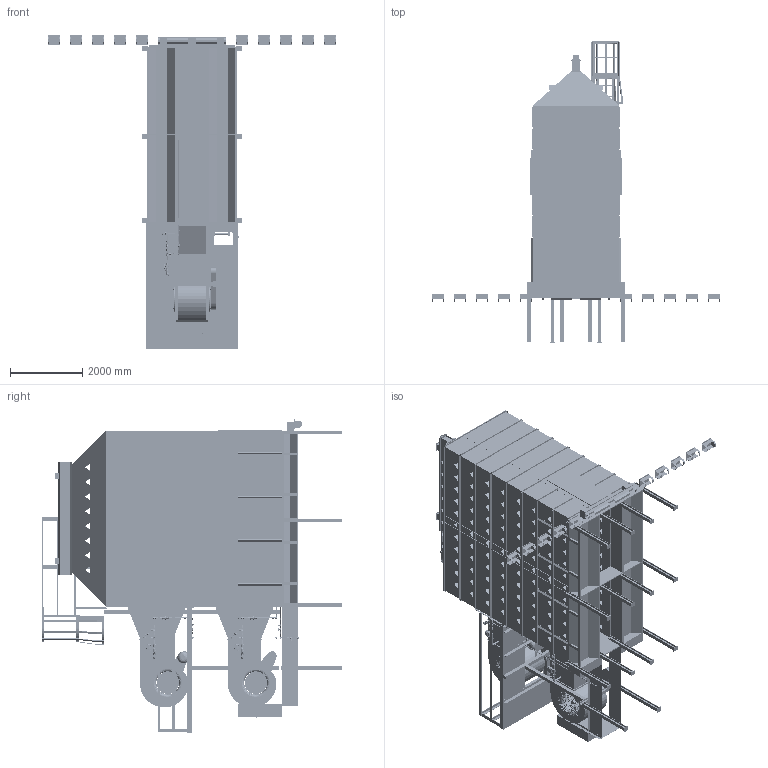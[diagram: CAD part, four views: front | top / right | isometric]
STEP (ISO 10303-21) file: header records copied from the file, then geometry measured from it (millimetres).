
FILE_DESCRIPTION(/* description */ ('PLAN AND ELEVATION VIEW FOR D16106 WITH ROOF & LEVEL AUGER'),/* implementation_level */ '2;1');
FILE_NAME(/* name */ 'C:\Engineering\Designs\Sales\Dryer\Workspaces\D16 All\D16106LA.stp',/* time_stamp */ '2025-01-06T16:45:31-06:00',/* author */ ('max.fleming'),/* organization */ (''),/* preprocessor_version */ 'ST-DEVELOPER v18.1',/* originating_system */ 'Autodesk Inventor 2022',/* authorisation */ '');
FILE_SCHEMA (('AUTOMOTIVE_DESIGN { 1 0 10303 214 3 1 1 }'));
Products named in the file (30): D16106LA; 16FT FRAME; 8FT LHRH FRAME; 16FT CATWALK; 16FT ROOF GF; 8FTRoof GF LHRH; Tongue; 16FT BODY TIER; LH Body; RH Body; LH Body_MIR6; RH Body_MIR6; Outside Splice; Standard Size End Plenum Panels; Ladder 2' section; Trans & Blower; Belt Shield; Screen Guard; LP Fuel; Stiffeners; Platform; Platform Support 1-T; 1 Tier Vertical Support; Level Auger 16'; Level Auger; 8'' Intake; 6'' CROSS AUGER; Leg Kit-02; LP Inlet; Liquid Propane Pipe
Assembly tree (88 placements, depth 3):
  D16106LA
    16FT FRAME
      8FT LHRH FRAME  x2
    16FT CATWALK
    16FT ROOF GF
      8FTRoof GF LHRH  x2
    Tongue
    16FT BODY TIER  x8
      LH Body
      RH Body
      LH Body_MIR6
      RH Body_MIR6
      Outside Splice
    Leg Kit-02  x12
    Standard Size End Plenum Panels  x13
    Trans & Blower  x2
    Belt Shield  x2
    Screen Guard  x4
    LP Fuel  x2
    Stiffeners  x16
    Platform
    Platform Support 1-T
    1 Tier Vertical Support  x6
    LP Inlet
    Liquid Propane Pipe  x4
  Ladder 2' section
  Level Auger 16'
    Level Auger  x2
  8'' Intake
  6'' CROSS AUGER
Bounding box: 8007.35 x 8339.54 x 8695.06 mm (x, y, z)
Volume: 46952626337.4 mm3; surface area: 659905751.4 mm2
Topology: 426 solids, 584 shells, 35696 faces, 92527 edges, 59003 vertices
Faces by surface type: plane 16217, cylinder 10543, bspline 3771, cone 3392, torus 1591, sphere 182
Full cylindrical faces by diameter (mm): 1 x10, 1.651 x6, 1.753 x6, 1.778 x12, 2.019 x4, 2.108 x2, 2.286 x24, 2.489 x2, 2.54 x4, 3.091 x288, 3.175 x5, 3.251 x20, 3.306 x288, 3.522 x2, 3.658 x28, 3.8 x16, 4 x384, 4.039 x20, 4.166 x256, 4.191 x4, 4.229 x2, 4.267 x2, 4.369 x8, 4.445 x8, 4.701 x592, 4.762 x16, 4.851 x8, 4.928 x32, 5.283 x2, 5.527 x20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
Entity records: 736566 total; most frequent: CARTESIAN_POINT 335460, ORIENTED_EDGE 84072, DIRECTION 75022, EDGE_CURVE 42176, VERTEX_POINT 26912, AXIS2_PLACEMENT_3D 26157, LINE 22708, VECTOR 22708
